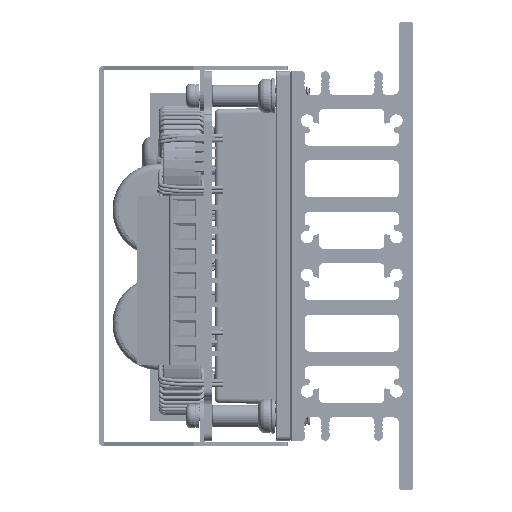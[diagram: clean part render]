
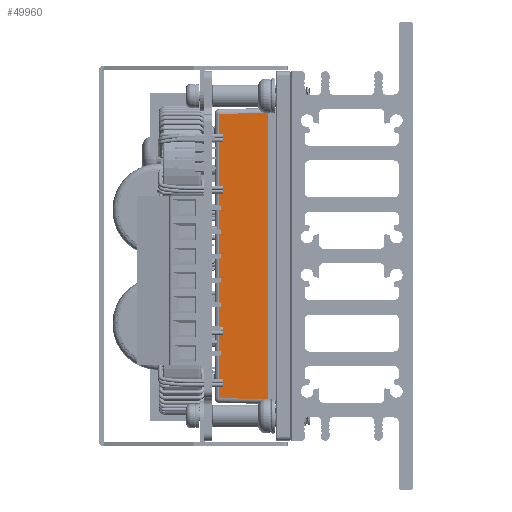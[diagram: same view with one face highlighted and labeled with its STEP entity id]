
A CAD part, left-side view. The second image highlights one B-rep face of the part: STEP entity #49960.
In plain terms, the highlighted planar face has unit normal (-1, 0.018, 0).
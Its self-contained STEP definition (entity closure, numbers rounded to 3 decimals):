
#1164 = ORIENTED_EDGE ( 'NONE', *, *, #153164, .T. ) ;
#10099 = CARTESIAN_POINT ( 'NONE',  ( -5.32, 7.5, 29.5 ) ) ;
#11270 = CARTESIAN_POINT ( 'NONE',  ( -6.143, 17.617, -30.306 ) ) ;
#16222 = DIRECTION ( 'NONE',  ( 0.017, 1., -0.017 ) ) ;
#18320 = VECTOR ( 'NONE', #118800, 1000. ) ;
#25812 = EDGE_CURVE ( 'NONE', #155169, #120090, #223336, .T. ) ;
#28297 = ORIENTED_EDGE ( 'NONE', *, *, #172557, .T. ) ;
#32260 = CARTESIAN_POINT ( 'NONE',  ( -6.32, 7.5, 29.5 ) ) ;
#37544 = CARTESIAN_POINT ( 'NONE',  ( -6.32, 7.5, -29.5 ) ) ;
#42357 = EDGE_CURVE ( 'NONE', #120090, #60958, #42365, .T. ) ;
#42365 = CIRCLE ( 'NONE', #132970, 1. ) ;
#49488 = VECTOR ( 'NONE', #158718, 1000. ) ;
#49647 = ORIENTED_EDGE ( 'NONE', *, *, #25812, .T. ) ;
#49960 = ADVANCED_FACE ( 'NONE', ( #210400 ), #109241, .T. ) ;
#60958 = VERTEX_POINT ( 'NONE', #32260 ) ;
#61689 = CARTESIAN_POINT ( 'NONE',  ( -6.143, 17.617, 29.324 ) ) ;
#62368 = DIRECTION ( 'NONE',  ( 0., 1., 0. ) ) ;
#62605 = VECTOR ( 'NONE', #16222, 1000. ) ;
#71059 = CARTESIAN_POINT ( 'NONE',  ( -6.32, 7.5, 30.5 ) ) ;
#75647 = CARTESIAN_POINT ( 'NONE',  ( -6.32, 7.5, 29.5 ) ) ;
#79371 = DIRECTION ( 'NONE',  ( 0., 0., -1. ) ) ;
#91050 = DIRECTION ( 'NONE',  ( 0.017, 1., 0. ) ) ;
#97883 = VERTEX_POINT ( 'NONE', #61689 ) ;
#100918 = DIRECTION ( 'NONE',  ( 0., 0., -1. ) ) ;
#107255 = VERTEX_POINT ( 'NONE', #211248 ) ;
#109241 = PLANE ( 'NONE',  #134040 ) ;
#110358 = DIRECTION ( 'NONE',  ( -1., 0.017, 0. ) ) ;
#116073 = ORIENTED_EDGE ( 'NONE', *, *, #42357, .T. ) ;
#118800 = DIRECTION ( 'NONE',  ( 0., 0., 1. ) ) ;
#120090 = VERTEX_POINT ( 'NONE', #75647 ) ;
#120137 = LINE ( 'NONE', #189452, #49488 ) ;
#123608 = EDGE_CURVE ( 'NONE', #97883, #107255, #148754, .T. ) ;
#124108 = CARTESIAN_POINT ( 'NONE',  ( -6.32, 7.483, 29.5 ) ) ;
#132970 = AXIS2_PLACEMENT_3D ( 'NONE', #10099, #62368, #79371 ) ;
#134040 = AXIS2_PLACEMENT_3D ( 'NONE', #197856, #110358, #91050 ) ;
#137589 = ORIENTED_EDGE ( 'NONE', *, *, #123608, .T. ) ;
#137788 = VECTOR ( 'NONE', #100918, 1000. ) ;
#148754 = LINE ( 'NONE', #11270, #137788 ) ;
#153164 = EDGE_CURVE ( 'NONE', #107255, #155169, #120137, .T. ) ;
#155169 = VERTEX_POINT ( 'NONE', #37544 ) ;
#158718 = DIRECTION ( 'NONE',  ( -0.017, -1., -0.017 ) ) ;
#171907 = LINE ( 'NONE', #124108, #62605 ) ;
#172557 = EDGE_CURVE ( 'NONE', #60958, #97883, #171907, .T. ) ;
#187525 = EDGE_LOOP ( 'NONE', ( #49647, #116073, #28297, #137589, #1164 ) ) ;
#189452 = CARTESIAN_POINT ( 'NONE',  ( -6.302, 8.547, -29.482 ) ) ;
#197856 = CARTESIAN_POINT ( 'NONE',  ( -6.32, 7.5, 30.5 ) ) ;
#210400 = FACE_OUTER_BOUND ( 'NONE', #187525, .T. ) ;
#211248 = CARTESIAN_POINT ( 'NONE',  ( -6.143, 17.617, -29.324 ) ) ;
#223336 = LINE ( 'NONE', #71059, #18320 ) ;
